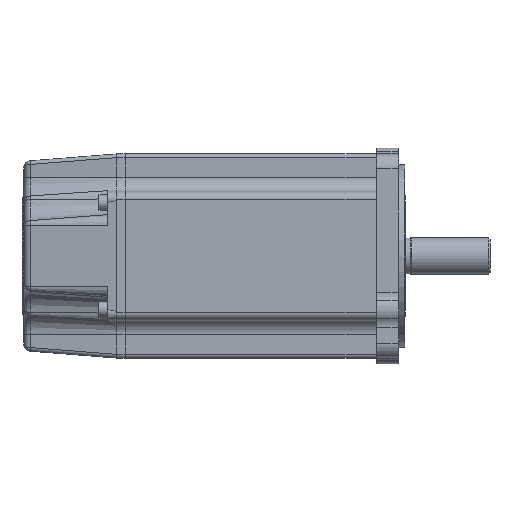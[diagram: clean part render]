
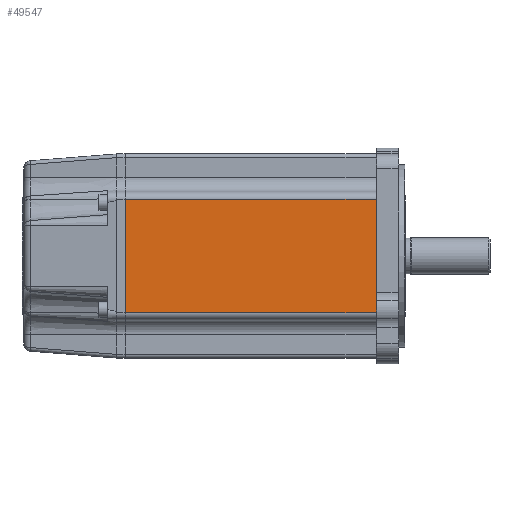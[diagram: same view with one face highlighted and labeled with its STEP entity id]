
A CAD part, front view. The second image highlights one B-rep face of the part: STEP entity #49547.
In plain terms, the highlighted planar face has unit normal (0, -1, 0).
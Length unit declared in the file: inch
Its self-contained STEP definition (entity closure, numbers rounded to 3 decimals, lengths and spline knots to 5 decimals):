
#5679 = ORIENTED_EDGE ( 'NONE', *, *, #22359, .F. ) ;
#8520 = CARTESIAN_POINT ( 'NONE',  ( -0.39, -1.76, -0.979 ) ) ;
#11107 = EDGE_CURVE ( 'NONE', #45315, #51860, #34313, .T. ) ;
#11503 = EDGE_LOOP ( 'NONE', ( #25979, #45740, #5679, #52892 ) ) ;
#12901 = EDGE_CURVE ( 'NONE', #54817, #45315, #17401, .T. ) ;
#13001 = DIRECTION ( 'NONE',  ( 1., 0., 0. ) ) ;
#14674 = CARTESIAN_POINT ( 'NONE',  ( -4.72, -1.76, -1.76 ) ) ;
#15611 = FACE_OUTER_BOUND ( 'NONE', #11503, .T. ) ;
#16211 = CARTESIAN_POINT ( 'NONE',  ( -4.72, -1.76, 0.979 ) ) ;
#17401 = LINE ( 'NONE', #23671, #50147 ) ;
#22359 = EDGE_CURVE ( 'NONE', #24152, #51860, #37707, .T. ) ;
#23616 = LINE ( 'NONE', #8520, #34071 ) ;
#23671 = CARTESIAN_POINT ( 'NONE',  ( -0.39, -1.76, -1.76 ) ) ;
#24152 = VERTEX_POINT ( 'NONE', #42280 ) ;
#24618 = DIRECTION ( 'NONE',  ( 0., 1., 0. ) ) ;
#25659 = AXIS2_PLACEMENT_3D ( 'NONE', #51287, #24618, #55741 ) ;
#25979 = ORIENTED_EDGE ( 'NONE', *, *, #12901, .T. ) ;
#26312 = CARTESIAN_POINT ( 'NONE',  ( -0.39, -1.76, -0.979 ) ) ;
#28149 = DIRECTION ( 'NONE',  ( 0., 0., 1. ) ) ;
#32069 = CARTESIAN_POINT ( 'NONE',  ( -4.72, -1.76, 0.979 ) ) ;
#34071 = VECTOR ( 'NONE', #13001, 39.37008 ) ;
#34313 = LINE ( 'NONE', #16211, #56579 ) ;
#37707 = LINE ( 'NONE', #14674, #49524 ) ;
#38473 = DIRECTION ( 'NONE',  ( -1., 0., 0. ) ) ;
#41367 = DIRECTION ( 'NONE',  ( 0., 0., 1. ) ) ;
#42212 = CARTESIAN_POINT ( 'NONE',  ( -0.39, -1.76, 0.979 ) ) ;
#42280 = CARTESIAN_POINT ( 'NONE',  ( -4.72, -1.76, -0.979 ) ) ;
#45315 = VERTEX_POINT ( 'NONE', #42212 ) ;
#45740 = ORIENTED_EDGE ( 'NONE', *, *, #11107, .T. ) ;
#49524 = VECTOR ( 'NONE', #41367, 39.37008 ) ;
#49547 = ADVANCED_FACE ( 'NONE', ( #15611 ), #55537, .F. ) ;
#50147 = VECTOR ( 'NONE', #28149, 39.37008 ) ;
#51287 = CARTESIAN_POINT ( 'NONE',  ( -4.72, -1.76, -1.76 ) ) ;
#51860 = VERTEX_POINT ( 'NONE', #32069 ) ;
#52892 = ORIENTED_EDGE ( 'NONE', *, *, #55201, .T. ) ;
#54817 = VERTEX_POINT ( 'NONE', #26312 ) ;
#55201 = EDGE_CURVE ( 'NONE', #24152, #54817, #23616, .T. ) ;
#55537 = PLANE ( 'NONE',  #25659 ) ;
#55741 = DIRECTION ( 'NONE',  ( 0., 0., 1. ) ) ;
#56579 = VECTOR ( 'NONE', #38473, 39.37008 ) ;
